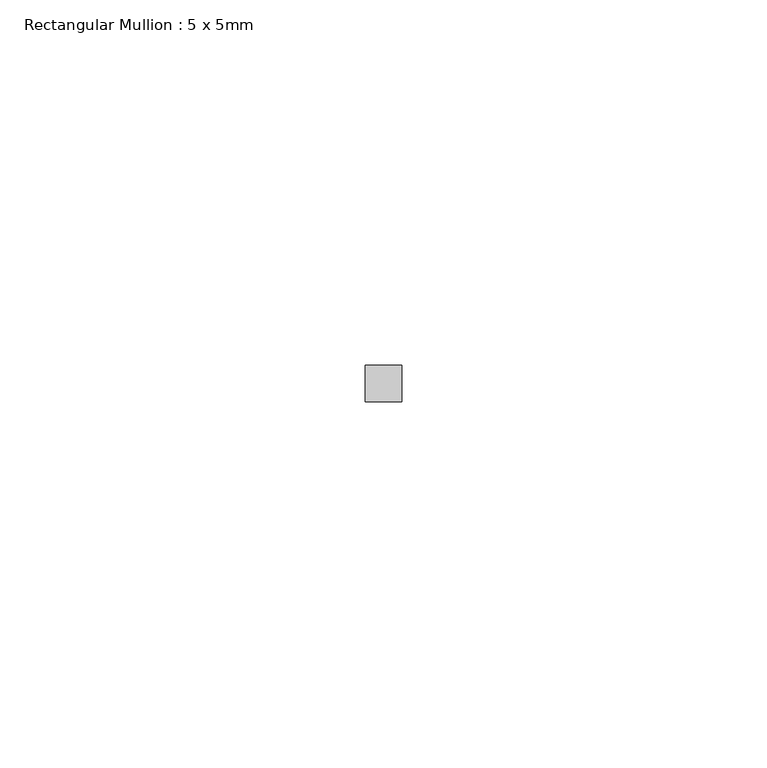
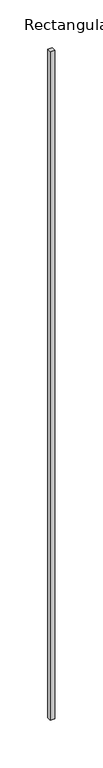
"""IFC4 building model written with IfcOpenShell, lengths in millimetres: member geometry, Rectangular Mullion : 5 x 5mm."""

from ifc_helpers import new_model, si_unit, frame, origin, place, context, project, spatial, polyline, outline, extrude, source, transform, mapped, element, save


def rectangular_mullion_5_x_5mm_6312e54a(model_context):
    return source(origin(), model_context, "Body", "SweptSolid", [
        extrude(outline(polyline([(0.0, 2.5), (0.0, -2.5), (-5.0, -2.5), (-5.0, 2.5), (0.0, 2.5)])), frame((0.0, 0.0, -850.0), z_axis=(0.0, 0.0, 1.0), x_axis=(1.0, 0.0, 0.0)), (0.0, 0.0, 1.0), 850.0),
    ])


if __name__ == "__main__":
    model = new_model("IFC4")
    model_context = context("Model", 3, world=origin())
    ifc_project = project(units=[si_unit("LENGTHUNIT", "METRE", prefix="MILLI")], contexts=[model_context])
    site = spatial("IfcSite", under=ifc_project)
    building = spatial("IfcBuilding", under=site)
    placement = place(None, origin())
    rectangular_mullion_5_x_5mm_shape = rectangular_mullion_5_x_5mm_6312e54a(model_context)
    element("IfcMember", 1, ObjectType="Rectangular Mullion : 5 x 5mm", at=placement, inside=building, context=model_context, shape_type="MappedRepresentation", body=[
        mapped(rectangular_mullion_5_x_5mm_shape, transform((0.0, 0.0, 0.0), x_axis=(1.0, 0.0, 0.0), y_axis=(0.0, 1.0, 0.0), z_axis=(0.0, 0.0, 1.0))),
    ])
    save(model, "model.ifc")
